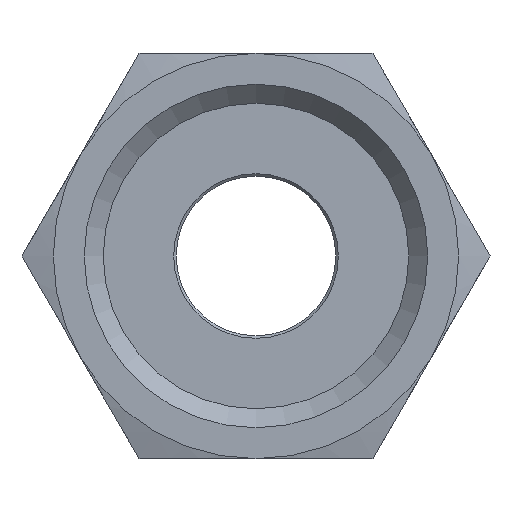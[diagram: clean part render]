
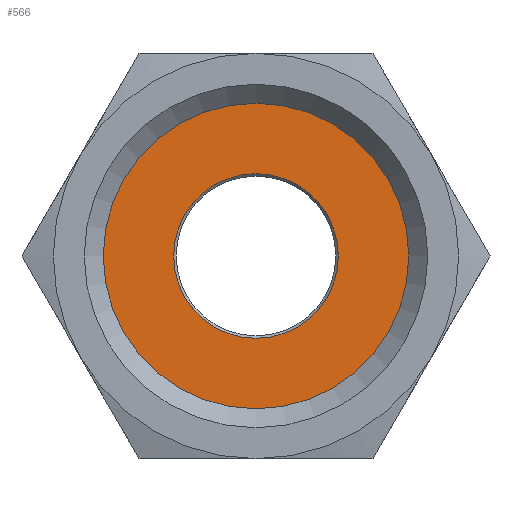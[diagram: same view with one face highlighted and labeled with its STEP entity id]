
A CAD part, front view. The second image highlights one B-rep face of the part: STEP entity #566.
In plain terms, the highlighted planar face has unit normal (0, -1, 0).
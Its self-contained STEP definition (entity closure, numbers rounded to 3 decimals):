
#34=FACE_BOUND('',#152,.T.);
#39=PLANE('',#640);
#116=FACE_OUTER_BOUND('',#151,.T.);
#151=EDGE_LOOP('',(#415,#416));
#152=EDGE_LOOP('',(#417));
#201=CIRCLE('',#636,6.5);
#204=CIRCLE('',#641,14.);
#205=CIRCLE('',#642,14.);
#248=VERTEX_POINT('',#927);
#251=VERTEX_POINT('',#937);
#252=VERTEX_POINT('',#938);
#311=EDGE_CURVE('',#248,#248,#201,.T.);
#315=EDGE_CURVE('',#251,#252,#204,.T.);
#316=EDGE_CURVE('',#252,#251,#205,.T.);
#415=ORIENTED_EDGE('',*,*,#315,.T.);
#416=ORIENTED_EDGE('',*,*,#316,.T.);
#417=ORIENTED_EDGE('',*,*,#311,.F.);
#566=ADVANCED_FACE('',(#116,#34),#39,.T.);
#636=AXIS2_PLACEMENT_3D('',#929,#746,#747);
#640=AXIS2_PLACEMENT_3D('',#936,#755,#756);
#641=AXIS2_PLACEMENT_3D('',#939,#757,#758);
#642=AXIS2_PLACEMENT_3D('',#940,#759,#760);
#746=DIRECTION('center_axis',(0.,-1.,0.));
#747=DIRECTION('ref_axis',(0.,0.,1.));
#755=DIRECTION('center_axis',(0.,-1.,0.));
#756=DIRECTION('ref_axis',(0.,0.,-1.));
#757=DIRECTION('center_axis',(0.,-1.,0.));
#758=DIRECTION('ref_axis',(1.,0.,0.));
#759=DIRECTION('center_axis',(0.,-1.,0.));
#760=DIRECTION('ref_axis',(1.,0.,0.));
#927=CARTESIAN_POINT('',(0.,-24.,-6.5));
#929=CARTESIAN_POINT('Origin',(0.,-24.,0.));
#936=CARTESIAN_POINT('Origin',(0.,-24.,-6.3));
#937=CARTESIAN_POINT('',(0.,-24.,-14.));
#938=CARTESIAN_POINT('',(0.,-24.,14.));
#939=CARTESIAN_POINT('Origin',(0.,-24.,0.));
#940=CARTESIAN_POINT('Origin',(0.,-24.,0.));
